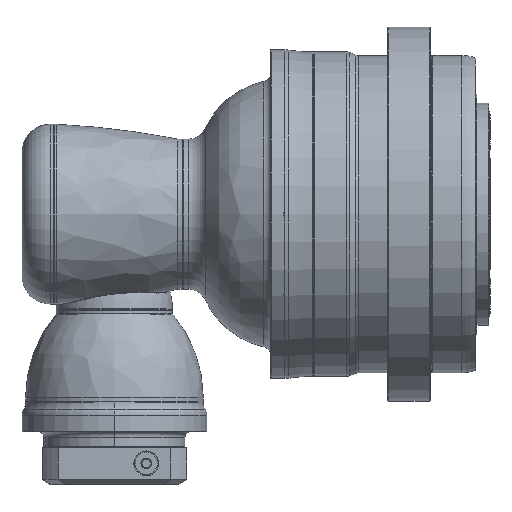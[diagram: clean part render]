
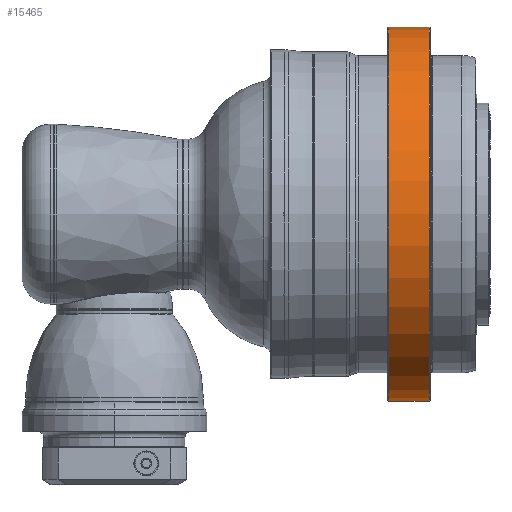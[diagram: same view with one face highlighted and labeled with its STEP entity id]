
A CAD part, top view. The second image highlights one B-rep face of the part: STEP entity #15465.
In plain terms, the highlighted cylindrical face has radius 265 mm (diameter 530 mm), a partial arc.
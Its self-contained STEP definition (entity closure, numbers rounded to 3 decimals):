
#12285=CARTESIAN_POINT('',(-59.,0.,0.));
#12286=DIRECTION('',(-1.,0.,0.));
#12287=DIRECTION('',(0.,-1.,0.));
#12288=AXIS2_PLACEMENT_3D('',#12285,#12286,#12287);
#12310=DIRECTION('',(-1.,0.,0.));
#12311=VECTOR('',#12310,58.);
#12312=CARTESIAN_POINT('',(-1.,-265.,0.));
#12313=LINE('',#12312,#12311);
#12314=DIRECTION('',(-1.,0.,0.));
#12315=VECTOR('',#12314,58.);
#12316=CARTESIAN_POINT('',(-1.,265.,0.));
#12317=LINE('',#12316,#12315);
#12318=CARTESIAN_POINT('',(-1.,0.,0.));
#12319=DIRECTION('',(-1.,0.,0.));
#12320=DIRECTION('',(0.,-1.,0.));
#12321=AXIS2_PLACEMENT_3D('',#12318,#12319,#12320);
#13284=CARTESIAN_POINT('',(-1.,-265.,0.));
#13285=CARTESIAN_POINT('',(-1.,265.,0.));
#13286=VERTEX_POINT('',#13284);
#13287=VERTEX_POINT('',#13285);
#13296=CARTESIAN_POINT('',(-59.,-265.,0.));
#13297=CARTESIAN_POINT('',(-59.,265.,0.));
#13298=VERTEX_POINT('',#13296);
#13299=VERTEX_POINT('',#13297);
#15453=CARTESIAN_POINT('',(-176.5,0.,0.));
#15454=DIRECTION('',(1.,0.,0.));
#15455=DIRECTION('',(0.,-1.,0.));
#15456=AXIS2_PLACEMENT_3D('',#15453,#15454,#15455);
#15457=CYLINDRICAL_SURFACE('',#15456,265.);
#15458=ORIENTED_EDGE('',*,*,#15418,.T.);
#15459=ORIENTED_EDGE('',*,*,#15448,.F.);
#15461=ORIENTED_EDGE('',*,*,#15460,.F.);
#15462=ORIENTED_EDGE('',*,*,#15444,.T.);
#15463=EDGE_LOOP('',(#15458,#15459,#15461,#15462));
#15464=FACE_OUTER_BOUND('',#15463,.F.);
#15465=ADVANCED_FACE('',(#15464),#15457,.T.);
#12289=CIRCLE('',#12288,265.);
#12322=CIRCLE('',#12321,265.);
#15418=EDGE_CURVE('',#13298,#13299,#12289,.T.);
#15444=EDGE_CURVE('',#13286,#13298,#12313,.T.);
#15448=EDGE_CURVE('',#13287,#13299,#12317,.T.);
#15460=EDGE_CURVE('',#13286,#13287,#12322,.T.);
